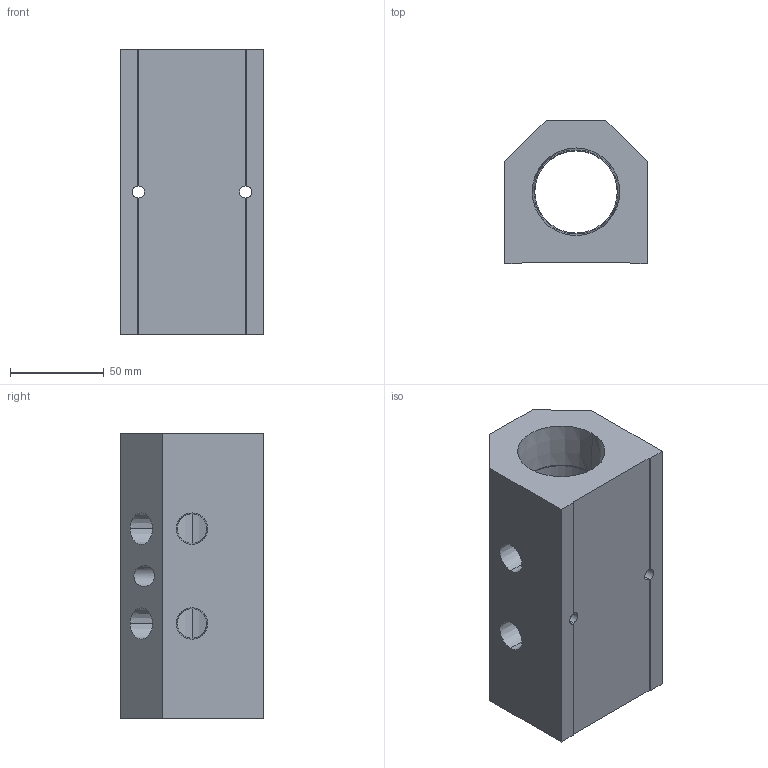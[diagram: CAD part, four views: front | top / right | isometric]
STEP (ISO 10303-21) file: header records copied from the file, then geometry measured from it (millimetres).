
FILE_DESCRIPTION (( 'STEP AP214' ), '1' );
FILE_NAME ('ALM2AB-N6N24-152B.step', '2022-02-07T09:08:06', ( '' ), ( '' ), 'SwSTEP 2.0', 'SolidWorks 2020', '' );
FILE_SCHEMA (( 'AUTOMOTIVE_DESIGN' ));
Length unit declared in the file: millimetre
Products named in the file (1): ALM2AB-N6N24-152B
Bounding box: 76.2 x 76.2 x 152 mm (x, y, z)
Volume: 546620.5 mm3; surface area: 75551.2 mm2
Topology: 1 solids, 1 shells, 294 faces, 775 edges, 514 vertices
Faces by surface type: plane 213, bspline 59, cone 12, cylinder 10
Entity records: 15894 total; most frequent: CARTESIAN_POINT 6135, ORIENTED_EDGE 1550, DIRECTION 1145, EDGE_CURVE 775, LINE 609, VECTOR 609, VERTEX_POINT 514, EDGE_LOOP 339
